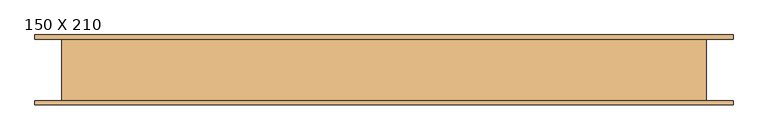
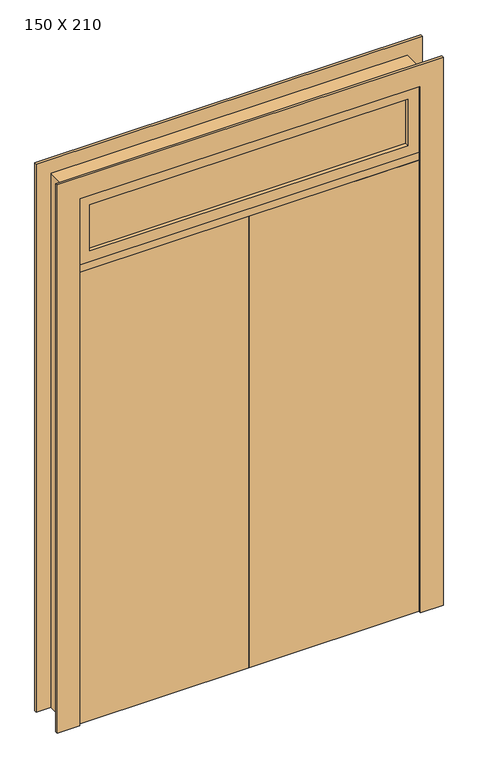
"""IFC4 building model written with IfcOpenShell, lengths in millimetres: door geometry, PORTA DE ABRIR - 2 FOLHAS + BANDEIRA FIXA COM VIDRO - 1 FOLHA : 150 X 210."""

from ifc_helpers import new_model, si_unit, frame, origin, origin_with_axes, place, context, project, spatial, polyline, outline, extrude, faceted_brep, source, transform, mapped, element, save


def door_150_x_210_92496eac(model_context):
    return source(origin(), model_context, "Body", "SolidModel", [
        extrude(outline(polyline([(80.0, -75.0), (80.0, -35.0), (830.0, -35.0), (830.0, -75.0), (80.0, -75.0)])), origin_with_axes(), (0.0, 0.0, 1.0), 2100.0),
        extrude(outline(polyline([(780.0, -52.0), (780.0, -58.0), (-620.0, -58.0), (-620.0, -52.0), (780.0, -52.0)])), frame((0.0, 0.0, 2185.0), z_axis=(0.0, 0.0, 1.0), x_axis=(1.0, 0.0, 0.0)), (0.0, 0.0, 1.0), 215.0),
        extrude(outline(polyline([(2450.0, 830.0), (2450.0, -670.0), (2135.0, -670.0), (2135.0, 830.0), (2450.0, 830.0)]), holes=[polyline([(2400.0, 780.0), (2185.0, 780.0), (2185.0, -620.0), (2400.0, -620.0), (2400.0, 780.0)])]), frame((0.0, -75.0, 0.0), z_axis=(0.0, 1.0, 0.0), x_axis=(0.0, 0.0, 1.0)), (0.0, 0.0, 1.0), 40.0),
        extrude(outline(polyline([(80.0, -75.0), (-670.0, -75.0), (-670.0, -35.0), (80.0, -35.0), (80.0, -75.0)])), origin_with_axes(), (0.0, 0.0, 1.0), 2100.0),
        extrude(outline(polyline([(2450.0, 830.0), (0.0, 830.0), (0.0, 930.0), (2550.0, 930.0), (2550.0, -770.0), (0.0, -770.0), (0.0, -670.0), (2450.0, -670.0), (2450.0, 830.0)])), frame((0.0, 75.0, 0.0), z_axis=(0.0, 1.0, 0.0), x_axis=(0.0, 0.0, 1.0)), (0.0, 0.0, 1.0), 10.0),
        extrude(outline(polyline([(2450.0, -670.0), (2450.0, 830.0), (0.0, 830.0), (0.0, 930.0), (2550.0, 930.0), (2550.0, -770.0), (0.0, -770.0), (0.0, -670.0), (2450.0, -670.0)])), frame((0.0, -85.0, 0.0), z_axis=(0.0, 1.0, 0.0), x_axis=(0.0, 0.0, 1.0)), (0.0, 0.0, 1.0), 10.0),
        faceted_brep([(-705.0, 75.0, 0.0), (-660.0, 75.0, 0.0), (-660.0, -35.0, 0.0), (-670.0, -35.0, 0.0), (-670.0, -75.0, 0.0), (-705.0, -75.0, 0.0), (-705.0, 75.0, 2485.0), (865.0, 75.0, 2485.0), (865.0, 75.0, 0.0), (820.0, 75.0, 0.0), (820.0, 75.0, 2090.0), (-660.0, 75.0, 2090.0), (-670.0, 75.0, 2135.0), (830.0, 75.0, 2135.0), (830.0, 75.0, 2450.0), (-670.0, 75.0, 2450.0), (-660.0, -35.0, 2090.0), (820.0, -35.0, 2090.0), (820.0, -35.0, 0.0), (830.0, -35.0, 0.0), (830.0, -35.0, 2100.0), (-670.0, -35.0, 2100.0), (-670.0, -75.0, 2100.0), (830.0, -75.0, 2100.0), (830.0, -75.0, 0.0), (865.0, -75.0, 0.0), (865.0, -75.0, 2485.0), (-705.0, -75.0, 2485.0), (830.0, -75.0, 2135.0), (-670.0, -75.0, 2135.0), (-670.0, -75.0, 2450.0), (830.0, -75.0, 2450.0)], [[[0, 1, 2, 3, 4, 5]], [[1, 0, 6, 7, 8, 9, 10, 11], [12, 13, 14, 15]], [[2, 1, 11, 16]], [[3, 2, 16, 17, 18, 19, 20, 21]], [[4, 3, 21, 22]], [[5, 4, 22, 23, 24, 25, 26, 27], [28, 29, 30, 31]], [[6, 0, 5, 27]], [[26, 25, 8, 7]], [[9, 8, 25, 24, 19, 18]], [[10, 9, 18, 17]], [[20, 19, 24, 23]], [[31, 14, 13, 28]], [[31, 30, 15, 14]], [[15, 30, 29, 12]], [[27, 26, 7, 6]], [[11, 10, 17, 16]], [[21, 20, 23, 22]], [[13, 12, 29, 28]]]),
    ])


if __name__ == "__main__":
    model = new_model("IFC4")
    model_context = context("Model", 3, world=origin())
    ifc_project = project(units=[si_unit("LENGTHUNIT", "METRE", prefix="MILLI")], contexts=[model_context])
    site = spatial("IfcSite", under=ifc_project)
    building = spatial("IfcBuilding", under=site)
    placement = place(None, origin())
    door_150_x_210_shape = door_150_x_210_92496eac(model_context)
    element("IfcDoor", 1, ObjectType="PORTA DE ABRIR - 2 FOLHAS + BANDEIRA FIXA COM VIDRO - 1 FOLHA : 150 X 210", at=placement, inside=building, context=model_context, shape_type="MappedRepresentation", body=[
        mapped(door_150_x_210_shape, transform((0.0, 0.0, 0.0), x_axis=(1.0, 0.0, 0.0), y_axis=(0.0, 1.0, 0.0), z_axis=(0.0, 0.0, 1.0))),
    ])
    save(model, "model.ifc")
